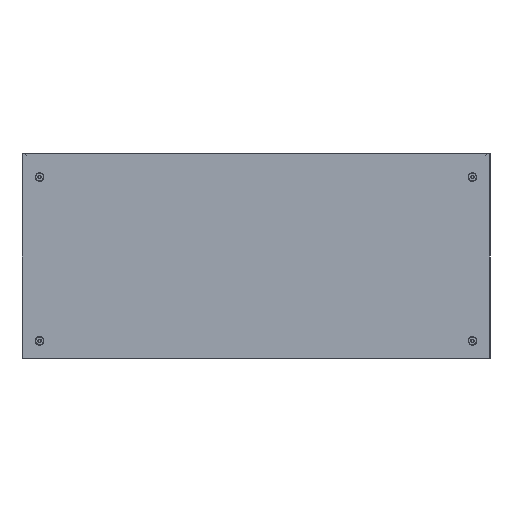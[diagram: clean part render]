
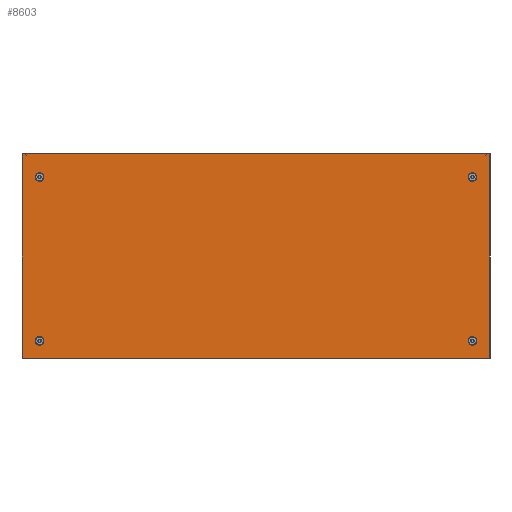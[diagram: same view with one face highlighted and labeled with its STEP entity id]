
A CAD part, front view. The second image highlights one B-rep face of the part: STEP entity #8603.
In plain terms, the highlighted planar face has unit normal (0, -1, 0).
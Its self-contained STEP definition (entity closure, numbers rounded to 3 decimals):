
#36 = VERTEX_POINT ( 'NONE', #3321 ) ;
#53 = CARTESIAN_POINT ( 'NONE',  ( -370., 0., -148. ) ) ;
#90 = AXIS2_PLACEMENT_3D ( 'NONE', #7608, #2370, #6672 ) ;
#213 = EDGE_CURVE ( 'NONE', #6286, #4424, #3187, .T. ) ;
#236 = VERTEX_POINT ( 'NONE', #4292 ) ;
#332 = EDGE_LOOP ( 'NONE', ( #7493, #813 ) ) ;
#449 = EDGE_CURVE ( 'NONE', #5488, #36, #4591, .T. ) ;
#508 = DIRECTION ( 'NONE',  ( 0., 0., 1. ) ) ;
#563 = CIRCLE ( 'NONE', #90, 3. ) ;
#739 = EDGE_CURVE ( 'NONE', #5768, #4740, #1322, .T. ) ;
#813 = ORIENTED_EDGE ( 'NONE', *, *, #739, .F. ) ;
#868 = EDGE_CURVE ( 'NONE', #6910, #236, #3150, .T. ) ;
#916 = ORIENTED_EDGE ( 'NONE', *, *, #1793, .F. ) ;
#1127 = DIRECTION ( 'NONE',  ( 0., -1., 0. ) ) ;
#1236 = DIRECTION ( 'NONE',  ( 0., 0., -1. ) ) ;
#1252 = CARTESIAN_POINT ( 'NONE',  ( 0., 0., 0. ) ) ;
#1296 = DIRECTION ( 'NONE',  ( 0., -1., 0. ) ) ;
#1298 = FACE_BOUND ( 'NONE', #7855, .T. ) ;
#1322 = CIRCLE ( 'NONE', #2595, 3. ) ;
#1372 = DIRECTION ( 'NONE',  ( 0., 0., -1. ) ) ;
#1694 = AXIS2_PLACEMENT_3D ( 'NONE', #2786, #1296, #9701 ) ;
#1782 = CARTESIAN_POINT ( 'NONE',  ( -370., 0., 135. ) ) ;
#1793 = EDGE_CURVE ( 'NONE', #236, #6910, #2360, .T. ) ;
#1928 = CARTESIAN_POINT ( 'NONE',  ( -400., 0., -175. ) ) ;
#1934 = DIRECTION ( 'NONE',  ( 0., -1., 0. ) ) ;
#2138 = FACE_BOUND ( 'NONE', #2417, .T. ) ;
#2169 = CIRCLE ( 'NONE', #8642, 3. ) ;
#2297 = EDGE_CURVE ( 'NONE', #4424, #6286, #563, .T. ) ;
#2320 = CIRCLE ( 'NONE', #1694, 3. ) ;
#2360 = CIRCLE ( 'NONE', #5021, 3. ) ;
#2364 = ORIENTED_EDGE ( 'NONE', *, *, #868, .F. ) ;
#2370 = DIRECTION ( 'NONE',  ( 0., -1., 0. ) ) ;
#2406 = CARTESIAN_POINT ( 'NONE',  ( 370., 0., 135. ) ) ;
#2417 = EDGE_LOOP ( 'NONE', ( #916, #2364 ) ) ;
#2566 = VERTEX_POINT ( 'NONE', #8540 ) ;
#2595 = AXIS2_PLACEMENT_3D ( 'NONE', #4186, #1127, #1372 ) ;
#2735 = VERTEX_POINT ( 'NONE', #3687 ) ;
#2744 = ORIENTED_EDGE ( 'NONE', *, *, #5753, .F. ) ;
#2786 = CARTESIAN_POINT ( 'NONE',  ( -370., 0., 135. ) ) ;
#2792 = FACE_BOUND ( 'NONE', #332, .T. ) ;
#3150 = CIRCLE ( 'NONE', #6461, 3. ) ;
#3187 = CIRCLE ( 'NONE', #4440, 3. ) ;
#3190 = CARTESIAN_POINT ( 'NONE',  ( 400., 0., -175. ) ) ;
#3321 = CARTESIAN_POINT ( 'NONE',  ( 400., 0., 175. ) ) ;
#3421 = LINE ( 'NONE', #6437, #8629 ) ;
#3504 = CARTESIAN_POINT ( 'NONE',  ( 400., 0., -175. ) ) ;
#3687 = CARTESIAN_POINT ( 'NONE',  ( -370., 0., 132. ) ) ;
#3757 = VECTOR ( 'NONE', #5957, 1000. ) ;
#3903 = AXIS2_PLACEMENT_3D ( 'NONE', #1782, #5536, #5339 ) ;
#3962 = ORIENTED_EDGE ( 'NONE', *, *, #4092, .F. ) ;
#4056 = DIRECTION ( 'NONE',  ( 0., 0., -1. ) ) ;
#4092 = EDGE_CURVE ( 'NONE', #4634, #5488, #3421, .T. ) ;
#4186 = CARTESIAN_POINT ( 'NONE',  ( 370., 0., -145. ) ) ;
#4292 = CARTESIAN_POINT ( 'NONE',  ( 370., 0., 132. ) ) ;
#4415 = PLANE ( 'NONE',  #9766 ) ;
#4424 = VERTEX_POINT ( 'NONE', #53 ) ;
#4440 = AXIS2_PLACEMENT_3D ( 'NONE', #8853, #1934, #1236 ) ;
#4544 = VERTEX_POINT ( 'NONE', #3504 ) ;
#4563 = CARTESIAN_POINT ( 'NONE',  ( -400., 0., -175. ) ) ;
#4591 = LINE ( 'NONE', #6131, #6332 ) ;
#4634 = VERTEX_POINT ( 'NONE', #1928 ) ;
#4712 = CARTESIAN_POINT ( 'NONE',  ( -370., 0., -142. ) ) ;
#4740 = VERTEX_POINT ( 'NONE', #7311 ) ;
#5021 = AXIS2_PLACEMENT_3D ( 'NONE', #2406, #5410, #8433 ) ;
#5024 = CARTESIAN_POINT ( 'NONE',  ( 370., 0., 138. ) ) ;
#5165 = CIRCLE ( 'NONE', #3903, 3. ) ;
#5339 = DIRECTION ( 'NONE',  ( 0., 0., -1. ) ) ;
#5354 = LINE ( 'NONE', #3190, #9137 ) ;
#5410 = DIRECTION ( 'NONE',  ( 0., -1., 0. ) ) ;
#5434 = CARTESIAN_POINT ( 'NONE',  ( 370., 0., -145. ) ) ;
#5488 = VERTEX_POINT ( 'NONE', #7884 ) ;
#5505 = DIRECTION ( 'NONE',  ( 0., 0., -1. ) ) ;
#5536 = DIRECTION ( 'NONE',  ( 0., -1., 0. ) ) ;
#5753 = EDGE_CURVE ( 'NONE', #2735, #2566, #5165, .T. ) ;
#5756 = EDGE_CURVE ( 'NONE', #4740, #5768, #2169, .T. ) ;
#5768 = VERTEX_POINT ( 'NONE', #7078 ) ;
#5801 = DIRECTION ( 'NONE',  ( 0., 1., 0. ) ) ;
#5957 = DIRECTION ( 'NONE',  ( -1., 0., 0. ) ) ;
#6070 = EDGE_CURVE ( 'NONE', #4544, #4634, #9024, .T. ) ;
#6083 = ORIENTED_EDGE ( 'NONE', *, *, #449, .F. ) ;
#6131 = CARTESIAN_POINT ( 'NONE',  ( -400., 0., 175. ) ) ;
#6187 = DIRECTION ( 'NONE',  ( 0., -1., 0. ) ) ;
#6208 = EDGE_CURVE ( 'NONE', #36, #4544, #5354, .T. ) ;
#6223 = DIRECTION ( 'NONE',  ( 1., 0., 0. ) ) ;
#6225 = ORIENTED_EDGE ( 'NONE', *, *, #6535, .F. ) ;
#6286 = VERTEX_POINT ( 'NONE', #4712 ) ;
#6315 = ORIENTED_EDGE ( 'NONE', *, *, #6070, .F. ) ;
#6332 = VECTOR ( 'NONE', #6223, 1000. ) ;
#6430 = EDGE_LOOP ( 'NONE', ( #7837, #6083, #3962, #6315 ) ) ;
#6437 = CARTESIAN_POINT ( 'NONE',  ( -400., 0., -175. ) ) ;
#6461 = AXIS2_PLACEMENT_3D ( 'NONE', #6866, #7604, #6965 ) ;
#6535 = EDGE_CURVE ( 'NONE', #2566, #2735, #2320, .T. ) ;
#6672 = DIRECTION ( 'NONE',  ( 0., 0., -1. ) ) ;
#6863 = ORIENTED_EDGE ( 'NONE', *, *, #213, .F. ) ;
#6866 = CARTESIAN_POINT ( 'NONE',  ( 370., 0., 135. ) ) ;
#6910 = VERTEX_POINT ( 'NONE', #5024 ) ;
#6965 = DIRECTION ( 'NONE',  ( 0., 0., -1. ) ) ;
#7078 = CARTESIAN_POINT ( 'NONE',  ( 370., 0., -142. ) ) ;
#7117 = EDGE_LOOP ( 'NONE', ( #9343, #6863 ) ) ;
#7311 = CARTESIAN_POINT ( 'NONE',  ( 370., 0., -148. ) ) ;
#7386 = FACE_BOUND ( 'NONE', #7117, .T. ) ;
#7493 = ORIENTED_EDGE ( 'NONE', *, *, #5756, .F. ) ;
#7604 = DIRECTION ( 'NONE',  ( 0., -1., 0. ) ) ;
#7608 = CARTESIAN_POINT ( 'NONE',  ( -370., 0., -145. ) ) ;
#7837 = ORIENTED_EDGE ( 'NONE', *, *, #6208, .F. ) ;
#7855 = EDGE_LOOP ( 'NONE', ( #2744, #6225 ) ) ;
#7884 = CARTESIAN_POINT ( 'NONE',  ( -400., 0., 175. ) ) ;
#8433 = DIRECTION ( 'NONE',  ( 0., 0., -1. ) ) ;
#8540 = CARTESIAN_POINT ( 'NONE',  ( -370., 0., 138. ) ) ;
#8603 = ADVANCED_FACE ( 'NONE', ( #1298, #2138, #2792, #7386, #9517 ), #4415, .F. ) ;
#8629 = VECTOR ( 'NONE', #9506, 1000. ) ;
#8642 = AXIS2_PLACEMENT_3D ( 'NONE', #5434, #6187, #4056 ) ;
#8853 = CARTESIAN_POINT ( 'NONE',  ( -370., 0., -145. ) ) ;
#9024 = LINE ( 'NONE', #4563, #3757 ) ;
#9137 = VECTOR ( 'NONE', #5505, 1000. ) ;
#9343 = ORIENTED_EDGE ( 'NONE', *, *, #2297, .F. ) ;
#9506 = DIRECTION ( 'NONE',  ( 0., 0., 1. ) ) ;
#9517 = FACE_OUTER_BOUND ( 'NONE', #6430, .T. ) ;
#9701 = DIRECTION ( 'NONE',  ( 0., 0., -1. ) ) ;
#9766 = AXIS2_PLACEMENT_3D ( 'NONE', #1252, #5801, #508 ) ;
